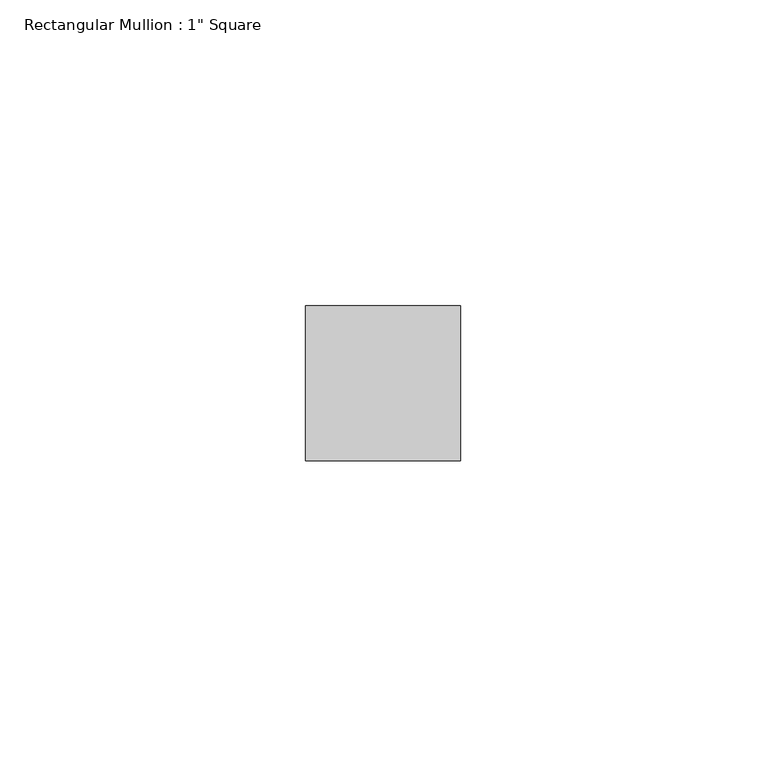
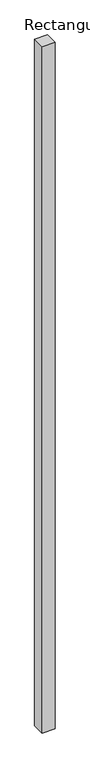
"""IFC4 building model written with IfcOpenShell, lengths in millimetres: member geometry."""

from ifc_helpers import new_model, si_unit, frame, origin, place, context, project, spatial, polyline, outline, extrude, source, transform, mapped, element, save


def member_95e271e4(model_context):
    return source(origin(), model_context, "Body", "SweptSolid", [
        extrude(outline(polyline([(12.7, 12.7), (12.7, -12.7), (-12.7, -12.7), (-12.7, 12.7), (12.7, 12.7)])), frame((0.0, 0.0, -1422.2800424), z_axis=(0.0, 0.0, 1.0), x_axis=(1.0, 0.0, 0.0)), (0.0, 0.0, 1.0), 1422.2800424),
    ])


if __name__ == "__main__":
    model = new_model("IFC4")
    model_context = context("Model", 3, world=origin())
    ifc_project = project(units=[si_unit("LENGTHUNIT", "METRE", prefix="MILLI")], contexts=[model_context])
    site = spatial("IfcSite", under=ifc_project)
    building = spatial("IfcBuilding", under=site)
    placement = place(None, origin())
    member_shape = member_95e271e4(model_context)
    element("IfcMember", 1, ObjectType="Rectangular Mullion : 1\" Square", at=placement, inside=building, context=model_context, shape_type="MappedRepresentation", body=[
        mapped(member_shape, transform((0.0, 0.0, 0.0), x_axis=(1.0, 0.0, 0.0), y_axis=(0.0, 1.0, 0.0), z_axis=(0.0, 0.0, 1.0))),
    ])
    save(model, "model.ifc")
